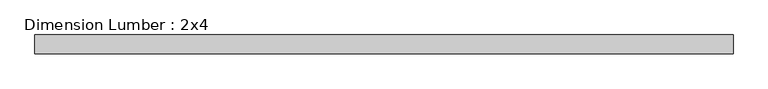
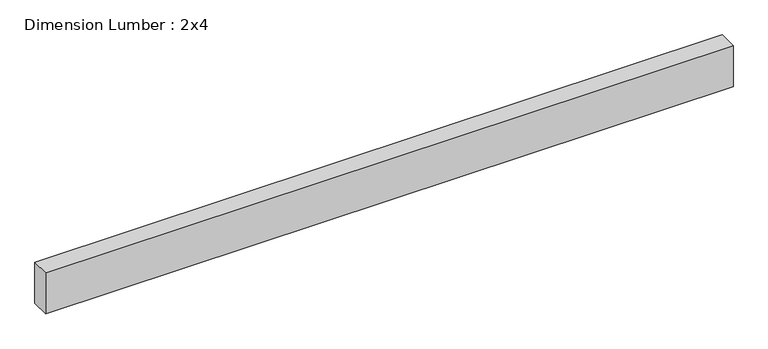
"""IFC4 building model written with IfcOpenShell, lengths in millimetres: beam geometry, Dimension Lumber : 2x4."""

from ifc_helpers import new_model, si_unit, frame, origin, place, context, project, spatial, polyline, outline, extrude, source, transform, mapped, element, save


def dimension_lumber_2x4_c9b014b3(model_context):
    return source(origin(), model_context, "Body", "SweptSolid", [
        extrude(outline(polyline([(692.5235294, 19.05), (692.5235294, -19.05), (-711.5735294, -19.05), (-711.5735294, 19.05), (692.5235294, 19.05)])), frame((0.0, 0.0, -44.45), z_axis=(0.0, 0.0, 1.0), x_axis=(1.0, 0.0, 0.0)), (0.0, 0.0, 1.0), 88.9),
    ])


if __name__ == "__main__":
    model = new_model("IFC4")
    model_context = context("Model", 3, world=origin())
    ifc_project = project(units=[si_unit("LENGTHUNIT", "METRE", prefix="MILLI")], contexts=[model_context])
    site = spatial("IfcSite", under=ifc_project)
    building = spatial("IfcBuilding", under=site)
    placement = place(None, origin())
    dimension_lumber_2x4_shape = dimension_lumber_2x4_c9b014b3(model_context)
    element("IfcBeam", 1, ObjectType="Dimension Lumber : 2x4", at=placement, inside=building, context=model_context, shape_type="MappedRepresentation", body=[
        mapped(dimension_lumber_2x4_shape, transform((0.0, 0.0, 0.0), x_axis=(1.0, 0.0, 0.0), y_axis=(0.0, 1.0, 0.0), z_axis=(0.0, 0.0, 1.0))),
    ])
    save(model, "model.ifc")
